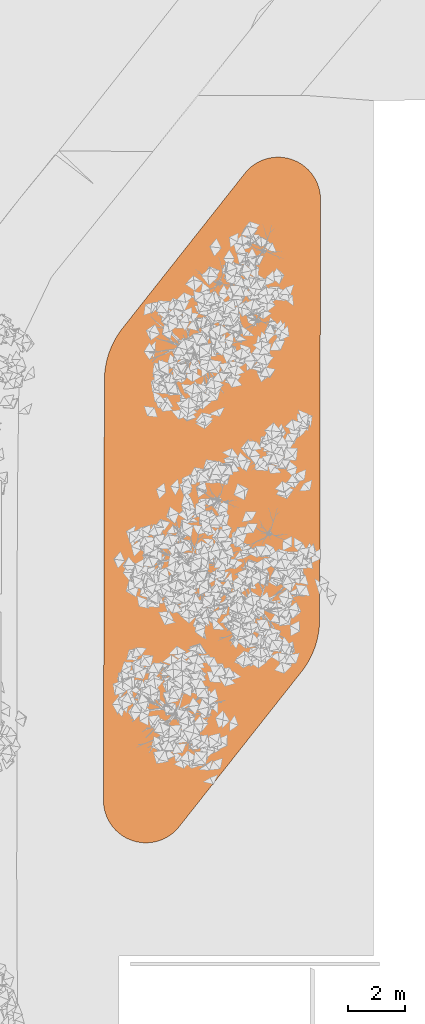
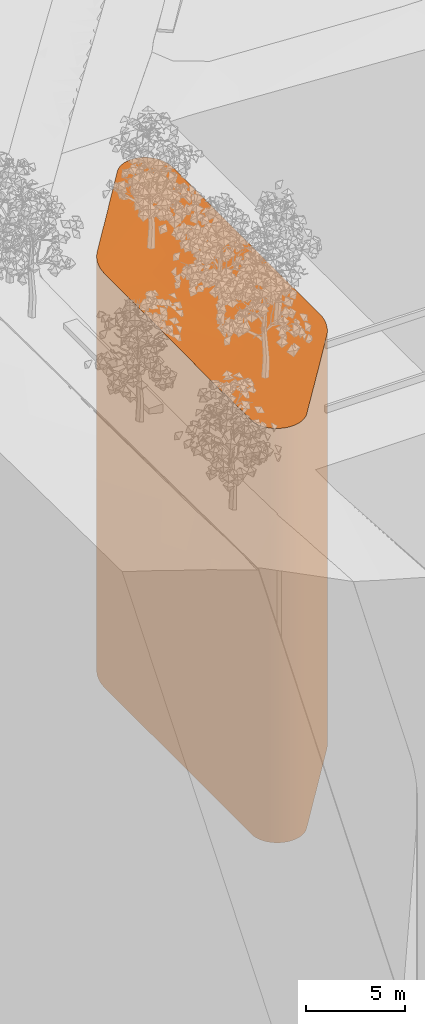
# One storey, part 63 of 69: 1 proxy.
"""IFC2X3 building model written with IfcOpenShell, lengths in millimetres."""

import ifcopenshell
import ifcopenshell.guid

model = None  # the IFC model being written
_history = None  # IfcOwnerHistory: only IFC2X3 demands one
_inside = {}  # id of a spatial element -> (the spatial element, [elements in it])
_under = {}  # id of a project, library or spatial element -> (it, [spatial elements below it])
_declared = {}  # id of a project -> (the project, [libraries it declares])
_typed = {}  # id of a type object -> (the type object, [elements of that type])
_made_of = {}  # id of a material, layer set ... -> (it, [elements and type objects made of it])


def new_model(schema):
    """Start an empty IFC model of exactly this schema.

    Asked for "IFC4X3", IfcOpenShell would pick the latest addendum, in which some entities
    have other attributes; the version numbers below select the first issue.
    IFC2X3 requires an IfcOwnerHistory on every rooted entity: one is made here for all.
    """
    global model, _history
    if schema == "IFC4X3":
        model = ifcopenshell.file(schema_version=(4, 3, 0, 0))
    else:
        model = ifcopenshell.file(schema=schema)
    _inside.clear()
    _under.clear()
    _declared.clear()
    _typed.clear()
    _made_of.clear()
    _history = None
    if model.schema == "IFC2X3":
        org = make("IfcOrganization", Name="unknown")
        user = make(
            "IfcPersonAndOrganization",
            ThePerson=make("IfcPerson", FamilyName="unknown"),
            TheOrganization=org,
        )
        app = make(
            "IfcApplication",
            ApplicationDeveloper=org,
            Version="unknown",
            ApplicationFullName="unknown",
            ApplicationIdentifier="unknown",
        )
        _history = make(
            "IfcOwnerHistory",
            OwningUser=user,
            OwningApplication=app,
            ChangeAction="ADDED",
            CreationDate=0,
        )
    return model


def make(cls, **values):
    """One entity of the class cls with the attributes given. An attribute that is None is left unset."""
    return model.create_entity(
        cls, **{name: value for name, value in values.items() if value is not None}
    )


def entity(cls, *values):
    """Any entity or typed value of the class cls, its attributes in the order of the schema. None: left unset."""
    e = model.create_entity(cls)
    for i, value in enumerate(values):
        if value is not None:
            e[i] = value
    return e


def rooted(cls, **values):
    """An entity with a GlobalId (a new one), such as an element, a storey or a relation."""
    return make(cls, GlobalId=ifcopenshell.guid.new(), OwnerHistory=_history, **values)


def si_unit(unit_type, name, prefix=None):
    """IfcSIUnit, for example si_unit("LENGTHUNIT", "METRE", prefix="MILLI")."""
    return make("IfcSIUnit", UnitType=unit_type, Prefix=prefix, Name=name)


def converted_unit(unit_type, name, factor, base, dimensions=None, offset=None):
    """IfcConversionBasedUnit, such as the inch: factor (a typed value) times the base unit."""
    return make(
        "IfcConversionBasedUnit"
        if offset is None
        else "IfcConversionBasedUnitWithOffset",
        ConversionOffset=offset,
        Dimensions=None
        if dimensions is None
        else entity("IfcDimensionalExponents", *dimensions),
        UnitType=unit_type,
        Name=name,
        ConversionFactor=make(
            "IfcMeasureWithUnit", ValueComponent=factor, UnitComponent=base
        ),
    )


def derived_unit(unit_type, elements):
    """IfcDerivedUnit: a product of units, each with its exponent."""
    return make(
        "IfcDerivedUnit",
        Elements=[
            make("IfcDerivedUnitElement", Unit=unit, Exponent=power)
            for unit, power in elements
        ],
        UnitType=unit_type,
    )


def money_unit(currency):
    """IfcMonetaryUnit."""
    return make("IfcMonetaryUnit", Currency=currency)


def assignment(units):
    """IfcUnitAssignment: the units of a project."""
    return None if units is None else make("IfcUnitAssignment", Units=units)


def point(xyz):
    """IfcCartesianPoint."""
    return None if xyz is None else make("IfcCartesianPoint", Coordinates=xyz)


def direction(xyz):
    """IfcDirection."""
    return None if xyz is None else make("IfcDirection", DirectionRatios=xyz)


def frame(location, z_axis=None, x_axis=None):
    """IfcAxis2Placement3D, a coordinate frame: its origin and axes. An axis left out is left unset."""
    return make(
        "IfcAxis2Placement3D",
        Location=point(location),
        Axis=direction(z_axis),
        RefDirection=direction(x_axis),
    )


def origin_with_axes():
    """The frame at (0, 0, 0) with the z axis (0, 0, 1) and the x axis (1, 0, 0) written out."""
    return frame((0.0, 0.0, 0.0), z_axis=(0.0, 0.0, 1.0), x_axis=(1.0, 0.0, 0.0))


def place(relative_to, where):
    """IfcLocalPlacement: puts the frame where relative to a parent placement (None: the world)."""
    return make(
        "IfcLocalPlacement", PlacementRelTo=relative_to, RelativePlacement=where
    )


def context(
    kind, dimensions, precision=None, world=None, true_north=None, identifier=None
):
    """IfcGeometricRepresentationContext, for example the 3D "Model" context."""
    return make(
        "IfcGeometricRepresentationContext",
        ContextIdentifier=identifier,
        ContextType=kind,
        CoordinateSpaceDimension=dimensions,
        Precision=precision,
        WorldCoordinateSystem=world,
        TrueNorth=true_north,
    )


def subcontext(parent, identifier, kind, view, scale=None):
    """IfcGeometricRepresentationSubContext, for example "Body" below "Model"."""
    return make(
        "IfcGeometricRepresentationSubContext",
        ContextIdentifier=identifier,
        ContextType=kind,
        ParentContext=parent,
        TargetScale=scale,
        TargetView=view,
    )


def project(units=None, contexts=None):
    """IfcProject with its units and contexts."""
    return rooted(
        "IfcProject",
        Name="project",
        RepresentationContexts=contexts,
        UnitsInContext=assignment(units),
    )


def spatial(cls, under=None, at=None, **own):
    """A site, building, storey or space (cls), placed at a placement, below another one or the project."""
    s = rooted(cls, ObjectPlacement=at, **own)
    if under is not None:
        _under.setdefault(under.id(), (under, []))[1].append(s)
    return s


def faces_of(points, faces, orient=None, outer=None):
    """IfcFace entities. A face is a list of loops; a loop is a list of indices into points, from 0.

    orient and outer hold one flag for each loop. By default every Orientation is true, the
    first loop of a face is its IfcFaceOuterBound and the others are IfcFaceBound.
    """
    made = []
    for i, loops in enumerate(faces):
        bounds = []
        for j, loop in enumerate(loops):
            is_outer = j == 0 if outer is None else outer[i][j]
            bounds.append(
                make(
                    "IfcFaceOuterBound" if is_outer else "IfcFaceBound",
                    Bound=make("IfcPolyLoop", Polygon=[points[k] for k in loop]),
                    Orientation=True if orient is None else orient[i][j],
                )
            )
        made.append(make("IfcFace", Bounds=bounds))
    return made


def faceted_brep(points, faces, orient=None, outer=None, voids=None):
    """IfcFacetedBrep: a solid bounded by flat faces; with voids (closed shells), ...WithVoids."""
    shared = [point(p) for p in points]
    hull = make("IfcClosedShell", CfsFaces=faces_of(shared, faces, orient, outer))
    if voids is None:
        return make("IfcFacetedBrep", Outer=hull)
    return make(
        "IfcFacetedBrepWithVoids",
        Outer=hull,
        Voids=[
            make(cls, CfsFaces=faces_of(shared, fs, o, b)) for cls, fs, o, b in voids
        ],
    )


def shape(context_of_items, identifier, shape_type, items):
    """IfcShapeRepresentation: the items that make up one representation, for example the "Body"."""
    return make(
        "IfcShapeRepresentation",
        ContextOfItems=context_of_items,
        RepresentationIdentifier=identifier,
        RepresentationType=shape_type,
        Items=items,
    )


def material(Name=None, Category=None):
    """IfcMaterial."""
    return make("IfcMaterial", Name=Name, Category=Category)


def made_of(thing, what):
    """Note that an element or type object is made of a material, layer set ...; save() writes the relation."""
    if what is not None:
        _made_of.setdefault(what.id(), (what, []))[1].append(thing)
    return thing


def type_object(cls, material=None, **own):
    """A type object (cls), such as IfcWallType, which elements share."""
    return made_of(rooted(cls, **own), material)


def element(
    cls,
    number,
    at=None,
    inside=None,
    cuts=None,
    type_object=None,
    material=None,
    context=None,
    identifier="Body",
    shape_type=None,
    held_by="IfcProductDefinitionShape",
    body=None,
    shapes=None,
    **own,
):
    """One element of the class cls, such as IfcWall. Its Tag is "e" and its number.

    at: its placement. inside: the storey or other place that contains it. cuts: it is an
    opening in that element (IfcRelVoidsElement). A single representation is given by context,
    identifier, shape_type and body (its items); several are given by shapes. held_by: the class
    of the entity that holds the representations. save() writes the other relations.
    """
    e = rooted(cls, Tag="e%d" % number, ObjectPlacement=at, **own)
    if body is not None:
        shapes = [shape(context, identifier, shape_type, body)]
    if shapes is not None:
        e.Representation = make(held_by, Representations=shapes)
    if inside is not None:
        _inside.setdefault(inside.id(), (inside, []))[1].append(e)
    if cuts is not None:
        rooted(
            "IfcRelVoidsElement", RelatingBuildingElement=cuts, RelatedOpeningElement=e
        )
    if type_object is not None:
        _typed.setdefault(type_object.id(), (type_object, []))[1].append(e)
    return made_of(e, material)


def aggregate(whole, parts):
    """IfcRelAggregates: a whole, such as a stair, and the parts it consists of."""
    return rooted("IfcRelAggregates", RelatingObject=whole, RelatedObjects=parts)


def save(model, path):
    """Write the relations noted so far, then the file.

    IfcRelAggregates (storeys below a building ...), IfcRelContainedInSpatialStructure (elements
    in a storey), IfcRelDefinesByType, IfcRelAssociatesMaterial and IfcRelDeclares: one each for
    every whole, place, type object, material and project.
    """
    for whole, parts in _under.values():
        aggregate(whole, parts)
    for where, things in _inside.values():
        rooted(
            "IfcRelContainedInSpatialStructure",
            RelatedElements=things,
            RelatingStructure=where,
        )
    for kind, things in _typed.values():
        rooted("IfcRelDefinesByType", RelatedObjects=things, RelatingType=kind)
    for what, things in _made_of.values():
        rooted("IfcRelAssociatesMaterial", RelatedObjects=things, RelatingMaterial=what)
    for by, libraries in _declared.values():
        rooted("IfcRelDeclares", RelatingContext=by, RelatedDefinitions=libraries)
    model.write(path)


model = new_model("IFC2X3")

# Units and contexts
model_context = context("Model", 3, precision=0.01, world=origin_with_axes(), true_north=direction((0.0, 1.0)))
body_context = subcontext(model_context, "Body", "Model", "MODEL_VIEW")
ifc_project = project(units=[si_unit("LENGTHUNIT", "METRE", prefix="MILLI"), si_unit("AREAUNIT", "SQUARE_METRE"), si_unit("VOLUMEUNIT", "CUBIC_METRE"), converted_unit("PLANEANGLEUNIT", "DEGREE", entity("IfcPlaneAngleMeasure", 0.0174532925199), si_unit("PLANEANGLEUNIT", "RADIAN"), dimensions=[0, 0, 0, 0, 0, 0, 0]), si_unit("SOLIDANGLEUNIT", "STERADIAN"), money_unit("EUR"), converted_unit("TIMEUNIT", "Year", entity("IfcTimeMeasure", 31556926.0), si_unit("TIMEUNIT", "SECOND"), dimensions=[0, 0, 1, 0, 0, 0, 0]), si_unit("MASSUNIT", "GRAM", prefix="KILO"), si_unit("THERMODYNAMICTEMPERATUREUNIT", "DEGREE_CELSIUS"), si_unit("LUMINOUSINTENSITYUNIT", "LUMEN"), si_unit("ENERGYUNIT", "JOULE", prefix="MEGA"), derived_unit("THERMALCONDUCTANCEUNIT", [(si_unit("POWERUNIT", "WATT"), 1), (si_unit("LENGTHUNIT", "METRE"), -1), (si_unit("THERMODYNAMICTEMPERATUREUNIT", "KELVIN"), -1)]), derived_unit("SPECIFICHEATCAPACITYUNIT", [(si_unit("ENERGYUNIT", "JOULE"), 1), (si_unit("MASSUNIT", "GRAM", prefix="KILO"), -1), (si_unit("THERMODYNAMICTEMPERATUREUNIT", "KELVIN"), -1)]), derived_unit("MASSDENSITYUNIT", [(si_unit("MASSUNIT", "GRAM", prefix="KILO"), 1), (si_unit("VOLUMEUNIT", "CUBIC_METRE"), -1)])], contexts=[model_context])

# Site, building, storey
site_placement = place(None, origin_with_axes())
site = spatial("IfcSite", under=ifc_project, at=site_placement, Name="Puškini 31, Narva", CompositionType="ELEMENT")
building_placement = place(site_placement, origin_with_axes())
building = spatial("IfcBuilding", under=site, at=building_placement, Name="Narva Riigigümnaasium", CompositionType="ELEMENT")
storey_placement = place(building_placement, origin_with_axes())
storey = spatial("IfcBuildingStorey", under=building, at=storey_placement, Name="1.korrus 0.00", CompositionType="ELEMENT", Elevation=0.0)

# Proxy
ifc_material = material(Name="Roheala")
building_element_proxy_type = type_object("IfcBuildingElementProxyType", Name="Roheala 30000", PredefinedType="NOTDEFINED")
proxy_placement = place(storey_placement, frame((28126.1320647, 246400.826609, 1157.88154799), z_axis=(0.0, 0.0, 1.0), x_axis=(1.0, 0.0, 0.0)))
element("IfcBuildingElementProxy", 1, at=proxy_placement, inside=storey, type_object=building_element_proxy_type, material=ifc_material, Name="Roheala", context=body_context, shape_type="Brep", body=[
    faceted_brep([(6990.66129105, 4656.64320198, -4553.11257814), (6995.39508997, 4597.15531131, -4553.11386061), (6995.39508997, 4597.15531131, -30000.0), (6985.68033158, 4719.23706711, -30000.0), (6985.68033158, 4719.23706711, -4550.94432258), (5552.17626397, 2059.10862388, -4557.88154799), (6625.07432412, -10258.6934688, -4557.88154799), (6969.00105899, -7447.74851505, -4556.19491339), (6995.26090841, 4535.92162039, -4553.12952402), (6995.26090841, 4535.92162039, -30000.0), (-154.131263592, -211.588253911, -30000.0), (-54.0937619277, -68.5098414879, -30000.0), (0.0, 0.0, -30000.0), (4317.99955587, 5468.74997419, -30000.0), (4383.19324829, 5547.69609375, -30000.0), (4469.09466947, 5634.98456648, -30000.0), (4561.82508163, 5714.98083071, -30000.0), (4660.76737917, 5787.15252452, -30000.0), (4765.26311744, 5851.01935719, -30000.0), (4874.61689454, 5906.15630548, -30000.0), (4988.10097911, 5952.1964421, -30000.0), (5104.9601533, 5988.83337753, -30000.0), (5224.41673859, 6015.82329902, -30000.0), (5345.67577111, 6032.98659309, -30000.0), (5467.93029201, 6040.20904085, -30000.0), (5590.36671761, 6037.4425781, -30000.0), (5712.17025372, 6024.7056152, -30000.0), (5832.53031788, 6002.08291453, -30000.0), (5950.64593374, 5969.72502644, -30000.0), (6065.73106135, 5927.84728732, -30000.0), (6177.01982818, 5876.72838663, -30000.0), (6283.77162585, 5816.70851221, -30000.0), (6385.27603876, 5748.18708642, -30000.0), (6480.85757178, 5671.62010805, -30000.0), (6569.88014559, 5587.51711772, -30000.0), (6651.75132964, 5496.43780693, -30000.0), (6725.92628471, 5398.98829348, -30000.0), (6791.91138871, 5295.8170878, -30000.0), (6849.26752167, 5187.61077725, -30000.0), (6897.61298797, 5075.08945696, -30000.0), (6936.62605653, 4959.00193777, -30000.0), (6966.0471018, 4840.12076295, -30000.0), (6962.74226681, -10303.9450704, -30000.0), (6959.06114466, -10469.8127004, -30000.0), (6943.9652767, -10643.7409864, -30000.0), (6918.78191813, -10816.4972666, -30000.0), (6883.59628146, -10987.4969884, -30000.0), (6838.52742376, -11156.1615429, -30000.0), (6783.72784376, -11321.9202226, -30000.0), (6719.3829659, -11484.2121527, -30000.0), (6645.71051289, -11642.4881887, -30000.0), (6562.95976897, -11796.2127744, -30000.0), (6471.41073648, -11944.8657547, -30000.0), (6371.37318835, -12087.9441348, -30000.0), (6317.27940418, -12156.4539588, -30000.0), (1999.28046138, -17625.2033187, -30000.0), (1934.08675533, -17704.1494555, -30000.0), (1848.18533412, -17791.4379282, -30000.0), (1755.45492194, -17871.4341924, -30000.0), (1656.51262437, -17943.6058862, -30000.0), (1552.01688608, -18007.4727189, -30000.0), (1442.66310897, -18062.6096671, -30000.0), (1329.17902438, -18108.6498037, -30000.0), (1212.31985017, -18145.2867391, -30000.0), (1092.86326487, -18172.2766606, -30000.0), (971.604232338, -18189.4399546, -30000.0), (849.349711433, -18196.6624024, -30000.0), (726.913285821, -18193.8959396, -30000.0), (605.109749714, -18181.1589767, -30000.0), (484.749685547, -18158.536276, -30000.0), (366.634069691, -18126.1783878, -30000.0), (251.548942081, -18084.3006487, -30000.0), (140.260175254, -18033.181748, -30000.0), (33.5083775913, -17973.1618735, -30000.0), (-67.9960353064, -17904.6404477, -30000.0), (-163.577568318, -17828.0734693, -30000.0), (-252.600142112, -17743.970479, -30000.0), (-334.471326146, -17652.8911682, -30000.0), (-408.646281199, -17555.4416547, -30000.0), (-474.631385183, -17452.270449, -30000.0), (-531.987518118, -17344.0641384, -30000.0), (-580.332984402, -17231.5428181, -30000.0), (-619.346052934, -17115.4552989, -30000.0), (-648.767098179, -16996.5741241, -30000.0), (-668.400327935, -16875.6904282, -30000.0), (-678.115086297, -16753.6086724, -30000.0), (-677.980904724, -16692.3749815, -30000.0), (-645.462259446, -1852.50812304, -30000.0), (-641.781193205, -1686.64146519, -30000.0), (-626.685381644, -1512.71317446, -30000.0), (-601.502079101, -1339.95688626, -30000.0), (-566.316497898, -1168.95715317, -30000.0), (-521.247694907, -1000.29258417, -30000.0), (-466.448168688, -834.533886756, -30000.0), (-402.103343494, -672.241935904, -30000.0), (-328.430941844, -513.965876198, -30000.0), (-245.680247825, -360.241263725, -30000.0), (6966.0471018, 4840.12076295, -4546.23825422), (6936.62605653, 4959.00193777, -4541.08635555), (6897.61298797, 5075.08945696, -4535.52291163), (6849.26752167, 5187.61077725, -4529.58494625), (6791.91138871, 5295.8170878, -4523.31197559), (6725.92628471, 5398.98829348, -4516.74574524), (6651.75132964, 5496.43780693, -4509.92995237), (6569.88014559, 5587.51711772, -4502.90995496), (6480.85757178, 5671.62010805, -4495.73246994), (6385.27603876, 5748.18708642, -4488.44526229), (6283.77162585, 5816.70851221, -4481.09682716), (6177.01982818, 5876.72838663, -4473.73606719), (6083.07761176, 5919.87939792, -4467.55357256), (3933.14370009, -5878.80550301, -4657.88154799), (3575.51101337, -1772.87147244, -4657.88154799), (6962.74226681, -10303.9450704, -4547.96535968), (6809.77939661, -11243.1189671, -4549.63134254), (6838.52742376, -11156.1615429, -4549.05452419), (6883.59628146, -10987.4969884, -4548.24546783), (6918.78191813, -10816.4972666, -4547.72962521), (6943.9652767, -10643.7409864, -4547.50874176), (6959.06114466, -10469.8127004, -4547.58356488), (-154.131263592, -211.588253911, -4545.62044101), (-54.0937619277, -68.5098414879, -4544.09109464), (0.0, 0.0, -4543.4466863), (4297.58597255, 5442.89613619, -4457.88154799), (4317.99955587, 5468.74997419, -4457.88154799), (1865.79838316, 2363.03301807, -4521.21987588), (4383.19324829, 5547.69609375, -4457.88154799), (4469.09466947, 5634.98456648, -4457.88154799), (4561.82508163, 5714.98083071, -4457.88154799), (4660.76737917, 5787.15252452, -4457.88154799), (4765.26311744, 5851.01935719, -4457.88154799), (4874.61689454, 5906.15630548, -4457.88154799), (4988.10097911, 5952.1964421, -4457.88154799), (5104.9601533, 5988.83337753, -4457.88154799), (5224.41673859, 6015.82329902, -4457.88154799), (5345.67577111, 6032.98659309, -4457.88154799), (5467.93029201, 6040.20904085, -4457.88154799), (5531.54647734, 6038.77162707, -4457.88154799), (5590.36671761, 6037.4425781, -4458.6285563), (5712.17025372, 6024.7056152, -4460.42571071), (5832.53031788, 6002.08291453, -4462.45313536), (5950.64593374, 5969.72502644, -4464.69733806), (6065.73106135, 5927.84728732, -4467.14338402), (6783.72784376, -11321.9202226, -4550.98933139), (6719.3829659, -11484.2121527, -4554.31455838), (6649.91109541, -11633.4637557, -4557.88154799), (6645.71051289, -11642.4881887, -4557.88154799), (6562.95976897, -11796.2127744, -4557.88154799), (6536.26325843, -11839.5612266, -4557.88154799), (6471.41073648, -11944.8657547, -4559.57281457), (6371.37318835, -12087.9441348, -4562.15877959), (6317.27940418, -12156.4539588, -4563.54663179), (2277.6169138, -17272.6897283, -4542.62700807), (1999.28046138, -17625.2033187, -4536.55276791), (5049.87058814, -13761.6257345, -4596.06378656), (3196.14322092, -16109.374598, -4557.88154799), (1934.08675533, -17704.1494555, -4535.19242944), (1848.18533412, -17791.4379282, -4533.68834224), (1755.45492194, -17871.4341924, -4532.30990866), (1656.51262437, -17943.6058862, -4531.06630193), (1552.01688608, -18007.4727189, -4529.96579805), (1442.66310897, -18062.6096671, -4529.01572069), (1329.17902438, -18108.6498037, -4528.22239247), (1212.31985017, -18145.2867391, -4527.59109284), (1092.86326487, -18172.2766606, -4527.12602302), (971.604232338, -18189.4399546, -4526.83027794), (849.349711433, -18196.6624024, -4526.70582577), (726.913285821, -18193.8959396, -4526.75349469), (710.134278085, -18192.1413633, -4526.78372809), (605.109749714, -18181.1589767, -4527.75377522), (484.749685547, -18158.536276, -4529.05386077), (366.634069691, -18126.1783878, -4530.52035549), (251.548942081, -18084.3006487, -4532.14350009), (140.260175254, -18033.181748, -4533.91249282), (33.5083775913, -17973.1618735, -4535.81556132), (-67.9960353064, -17904.6404477, -4537.84004098), (-163.577568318, -17828.0734693, -4539.97245923), (-252.600142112, -17743.970479, -4542.19862518), (-334.471326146, -17652.8911682, -4544.50372405), (-408.646281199, -17555.4416547, -4546.8724158), (-474.631385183, -17452.270449, -4549.28893718), (-531.987518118, -17344.0641384, -4551.73720662), (-580.332984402, -17231.5428181, -4554.20093131), (-619.346052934, -17115.4552989, -4556.66371555), (-633.997687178, -17056.2526609, -4557.88154799), (-648.767098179, -16996.5741241, -4557.88154799), (-668.400327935, -16875.6904282, -4557.88154799), (-678.115086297, -16753.6086724, -4557.88154799), (-677.980904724, -16692.3749815, -4557.88154799), (-646.241546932, -2208.13556199, -4557.88154799), (-645.462259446, -1852.50812304, -4557.30515473), (-676.586451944, -16056.0171805, -4557.88154799), (-670.053665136, -13074.7833188, -4608.37466393), (-655.390569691, -6383.28733909, -4559.20840468), (-655.191655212, -6292.51282011, -4559.73233138), (-648.639483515, -3302.4326744, -4560.36298171), (-641.781193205, -1686.64146519, -4557.14375572), (-626.685381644, -1512.71317446, -4557.3383628), (-601.502079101, -1339.95688626, -4557.86161633), (-600.677137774, -1335.94772279, -4557.88154799), (-566.316497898, -1168.95715317, -4559.04306447), (-540.550696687, -1072.53174429, -4557.88154799), (-521.247694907, -1000.29258417, -4556.66656921), (-556.406297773, -1131.86942237, -4559.40427961), (-466.448168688, -834.533886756, -4554.02780531), (-402.103343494, -672.241935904, -4551.59594842), (-328.430941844, -513.965876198, -4549.37922717), (-245.680247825, -360.241263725, -4547.38514225), (4312.14956075, 5448.48051756, -4457.88154799), (2342.08597279, -10714.9551655, -4657.88154799), (6480.43271255, -10698.3434378, -4557.88154799), (3622.16109178, 1793.54370266, -4557.88154799), (2932.17262256, -1861.39311315, -4657.88154799), (1528.57031962, -2827.7896117, -4657.88154799), (1490.42902524, -3557.88517747, -4657.88154799), (1492.88639073, -4567.58749639, -4657.88154799), (1092.06397668, -16387.4043657, -4557.88154799)], [[[0, 1, 2, 3, 4]], [[1, 0, 5, 6, 7, 8]], [[1, 8, 9, 2]], [[10, 11, 12, 13, 14, 15, 16, 17, 18, 19, 20, 21, 22, 23, 24, 25, 26, 27, 28, 29, 30, 31, 32, 33, 34, 35, 36, 37, 38, 39, 40, 41, 3, 2, 9, 42, 43, 44, 45, 46, 47, 48, 49, 50, 51, 52, 53, 54, 55, 56, 57, 58, 59, 60, 61, 62, 63, 64, 65, 66, 67, 68, 69, 70, 71, 72, 73, 74, 75, 76, 77, 78, 79, 80, 81, 82, 83, 84, 85, 86, 87, 88, 89, 90, 91, 92, 93, 94, 95, 96]], [[97, 4, 3, 41]], [[0, 4, 97, 98, 99, 100, 101, 102, 103, 104, 105, 106, 107, 108, 109, 5]], [[110, 6, 5, 111]], [[112, 7, 6, 113, 114, 115, 116, 117, 118]], [[7, 112, 42, 9, 8]], [[119, 120, 11, 10]], [[120, 121, 12, 11]], [[122, 123, 13, 12, 121, 124]], [[123, 125, 14, 13]], [[125, 126, 15, 14]], [[126, 127, 16, 15]], [[127, 128, 17, 16]], [[128, 129, 18, 17]], [[129, 130, 19, 18]], [[130, 131, 20, 19]], [[131, 132, 21, 20]], [[132, 133, 22, 21]], [[133, 134, 23, 22]], [[134, 135, 24, 23]], [[136, 137, 25, 24, 135]], [[137, 138, 26, 25]], [[138, 139, 27, 26]], [[139, 140, 28, 27]], [[140, 141, 29, 28]], [[109, 108, 30, 29, 141]], [[108, 107, 31, 30]], [[107, 106, 32, 31]], [[106, 105, 33, 32]], [[105, 104, 34, 33]], [[104, 103, 35, 34]], [[103, 102, 36, 35]], [[102, 101, 37, 36]], [[101, 100, 38, 37]], [[100, 99, 39, 38]], [[99, 98, 40, 39]], [[98, 97, 41, 40]], [[112, 118, 43, 42]], [[118, 117, 44, 43]], [[117, 116, 45, 44]], [[116, 115, 46, 45]], [[115, 114, 47, 46]], [[113, 142, 48, 47, 114]], [[142, 143, 49, 48]], [[144, 145, 50, 49, 143]], [[145, 146, 51, 50]], [[147, 148, 52, 51, 146]], [[148, 149, 53, 52]], [[149, 150, 54, 53]], [[151, 152, 55, 54, 150, 153, 154]], [[152, 155, 56, 55]], [[155, 156, 57, 56]], [[156, 157, 58, 57]], [[157, 158, 59, 58]], [[158, 159, 60, 59]], [[159, 160, 61, 60]], [[160, 161, 62, 61]], [[161, 162, 63, 62]], [[162, 163, 64, 63]], [[163, 164, 65, 64]], [[164, 165, 66, 65]], [[165, 166, 67, 66]], [[167, 168, 68, 67, 166]], [[168, 169, 69, 68]], [[169, 170, 70, 69]], [[170, 171, 71, 70]], [[171, 172, 72, 71]], [[172, 173, 73, 72]], [[173, 174, 74, 73]], [[174, 175, 75, 74]], [[175, 176, 76, 75]], [[176, 177, 77, 76]], [[177, 178, 78, 77]], [[178, 179, 79, 78]], [[179, 180, 80, 79]], [[180, 181, 81, 80]], [[181, 182, 82, 81]], [[183, 184, 83, 82, 182]], [[184, 185, 84, 83]], [[185, 186, 85, 84]], [[186, 187, 86, 85]], [[188, 189, 87, 86, 187, 190, 191, 192, 193, 194]], [[189, 195, 88, 87]], [[195, 196, 89, 88]], [[196, 197, 90, 89]], [[198, 199, 91, 90, 197]], [[200, 201, 92, 91, 199, 202]], [[201, 203, 93, 92]], [[203, 204, 94, 93]], [[204, 205, 95, 94]], [[205, 206, 96, 95]], [[206, 119, 10, 96]], [[109, 141, 140, 139, 138, 137, 136, 207, 5]], [[208, 209, 6, 110]], [[111, 5, 210, 211]], [[211, 212, 213, 214, 208, 110, 111]], [[142, 113, 6, 144, 143]], [[124, 121, 120, 119, 206, 205, 204, 203, 201, 200, 210]], [[136, 135, 134, 133, 132, 131, 130, 129, 128, 127, 126, 125, 123, 122, 207]], [[122, 124, 210, 207]], [[145, 144, 6, 209, 147, 146]], [[148, 147, 209, 208, 153, 150, 149]], [[152, 151, 215, 167, 166, 165, 164, 163, 162, 161, 160, 159, 158, 157, 156, 155]], [[154, 153, 208, 215]], [[151, 154, 215]], [[168, 167, 215, 183, 182, 181, 180, 179, 178, 177, 176, 175, 174, 173, 172, 171, 170, 169]], [[184, 183, 215, 190, 187, 186, 185]], [[198, 197, 196, 195, 189, 188]], [[191, 190, 215, 208]], [[192, 191, 208]], [[193, 192, 208, 214]], [[194, 193, 214, 213]], [[202, 199, 198, 188, 194, 213, 212]], [[200, 202, 212, 211, 210]], [[210, 5, 207]]]),
])

save(model, "model.ifc")
